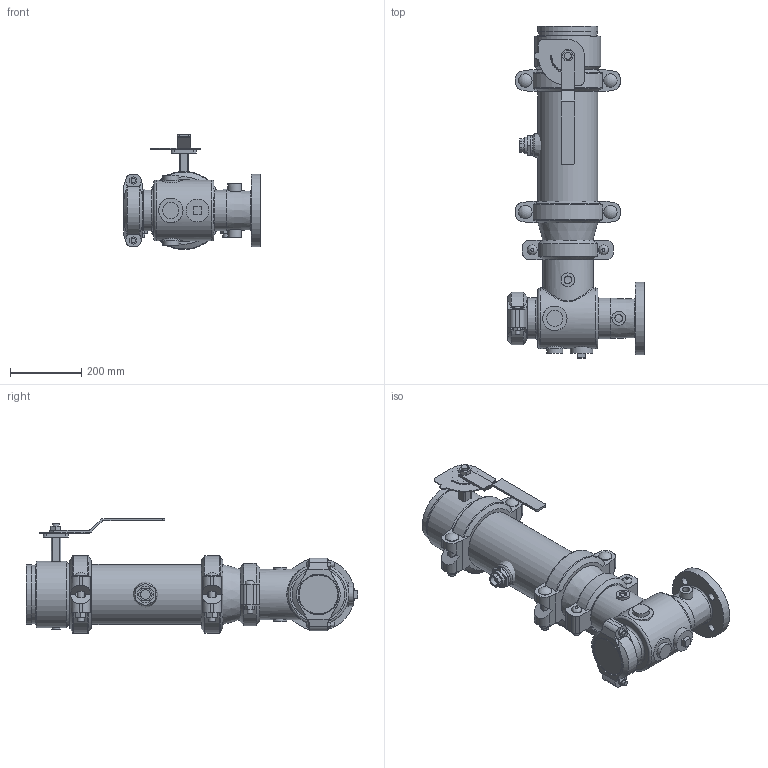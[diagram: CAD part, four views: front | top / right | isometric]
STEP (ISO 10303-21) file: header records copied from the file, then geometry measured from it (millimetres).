
FILE_DESCRIPTION(/* description */ ('VIC SVI PUMP DROP HORZ S/391 (OGSxFLG)','CAx-IF Rec.Pracs.---Representation and Presentation of Product Manufacturing Information (PMI)---4.0---2014-10-13'),/* implementation_level */ '2;1');
FILE_NAME(/* name */ 'C:\Users\Vjadhav\AppData\Roaming\Autodesk\ApplicationPlugins\Victaulic.Temp\A952\Victaulic_IPS_SVI_CL 150_Series 391 (OGSxFLG)_06.0x03.0 (150x80).stp',/* time_stamp */ '2021-04-09T17:54:07+05:00',/* author */ ('kkamble'),/* organization */ ('Victaulic'),/* preprocessor_version */ 'ST-DEVELOPER v17.2',/* originating_system */ 'Autodesk Inventor 2019',/* authorisation */ '');
FILE_SCHEMA (('AP242_MANAGED_MODEL_BASED_3D_ENGINEERING_MIM_LF { 1 0 10303 442 1 1 4 }'));
Length unit declared in the file: inch
Products named in the file (11): 391-06.0x03.0; 731D-05.0x03.0; 731D-05.0x03.0_1; 731D-05.0; 07-04.0; 050-06.0x05.0; 075-05.0; PIPE-06.0; 761-06.0; 177N-06.0; 923-04.0x0.75
Assembly tree (11 placements, depth 3):
  391-06.0x03.0
    731D-05.0x03.0
      731D-05.0x03.0_1
      731D-05.0
      07-04.0
    050-06.0x05.0
    075-05.0
    PIPE-06.0
    177N-06.0  x2
    761-06.0
    923-04.0x0.75
Bounding box: 381 x 929.89 x 322.07 mm (x, y, z)
Volume: 10373825.3 mm3; surface area: 1755079 mm2
Topology: 10 solids, 15 shells, 601 faces, 1541 edges, 1044 vertices
Faces by surface type: plane 340, cylinder 210, cone 25, torus 17, sphere 6, bspline 3
Full cylindrical faces by diameter (mm): 4.826 x10, 8.636 x4, 12.7 x4, 15.875 x4, 17.424 x2, 19.05 x6, 21.336 x4, 21.996 x4, 22.225 x2, 22.86 x1, 26.67 x1, 37.694 x4, 38.1 x4, 45.72 x3, 45.974 x2, 55.118 x1, 55.626 x1, 63.5 x1, 76.2 x1, 84.074 x1, 90.678 x1, 96.52 x1, 107.95 x1, 110.084 x2, 113.03 x1, 114.3 x5, 121.412 x1, 128.194 x1, 134.95 x1, 137.033 x2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
Entity records: 17853 total; most frequent: CARTESIAN_POINT 3961, DIRECTION 2850, ORIENTED_EDGE 2602, EDGE_CURVE 1301, AXIS2_PLACEMENT_3D 1087, VERTEX_POINT 885, LINE 676, VECTOR 676
